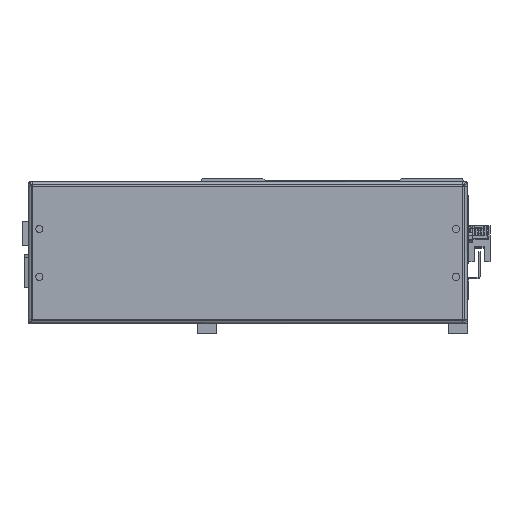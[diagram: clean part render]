
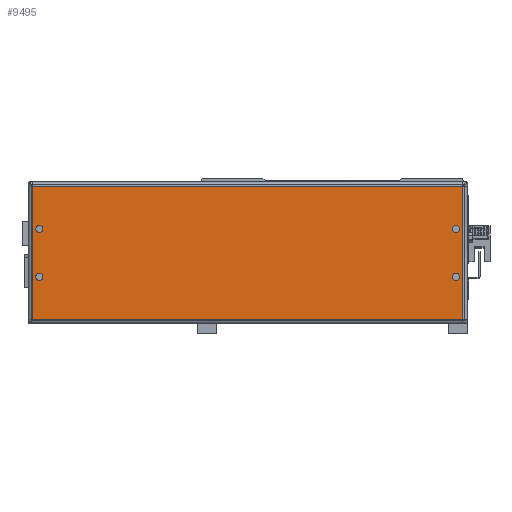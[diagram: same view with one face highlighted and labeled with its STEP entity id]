
A CAD part, front view. The second image highlights one B-rep face of the part: STEP entity #9495.
In plain terms, the highlighted planar face has unit normal (0, -1, 0) as drawn and (0, 0, 1) by its records, which use the part's own axes.
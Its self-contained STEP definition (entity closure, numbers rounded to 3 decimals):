
#13 = VERTEX_POINT ( 'NONE', #3134 ) ;
#352 = CARTESIAN_POINT ( 'NONE',  ( -97.046, -29.032, 63. ) ) ;
#661 = VERTEX_POINT ( 'NONE', #6734 ) ;
#1154 = CARTESIAN_POINT ( 'NONE',  ( 168.247, 27.731, 63. ) ) ;
#1396 = CARTESIAN_POINT ( 'NONE',  ( -97.016, 54.524, 63. ) ) ;
#1518 = CARTESIAN_POINT ( 'NONE',  ( -97.016, -29.032, 63. ) ) ;
#2566 = DIRECTION ( 'NONE',  ( 1., 0., 0. ) ) ;
#2688 = AXIS2_PLACEMENT_3D ( 'NONE', #22739, #8656, #14381 ) ;
#2734 = EDGE_CURVE ( 'NONE', #661, #661, #20101, .T. ) ;
#3134 = CARTESIAN_POINT ( 'NONE',  ( 172.51, 54.494, 63. ) ) ;
#3171 = LINE ( 'NONE', #1396, #10917 ) ;
#3206 = AXIS2_PLACEMENT_3D ( 'NONE', #12974, #8588, #20899 ) ;
#4294 = CARTESIAN_POINT ( 'NONE',  ( 172.51, -29.032, 63. ) ) ;
#4389 = VERTEX_POINT ( 'NONE', #1518 ) ;
#4665 = ORIENTED_EDGE ( 'NONE', *, *, #5373, .F. ) ;
#5373 = EDGE_CURVE ( 'NONE', #26927, #26927, #24613, .T. ) ;
#5550 = AXIS2_PLACEMENT_3D ( 'NONE', #1154, #24752, #20358 ) ;
#5909 = CARTESIAN_POINT ( 'NONE',  ( -71.103, 2.271, 63. ) ) ;
#6079 = ORIENTED_EDGE ( 'NONE', *, *, #2734, .F. ) ;
#6202 = DIRECTION ( 'NONE',  ( 0., -1., 0. ) ) ;
#6271 = DIRECTION ( 'NONE',  ( 1., 0., 0. ) ) ;
#6663 = DIRECTION ( 'NONE',  ( 0., 0., 1. ) ) ;
#6734 = CARTESIAN_POINT ( 'NONE',  ( 170.497, 27.731, 63. ) ) ;
#7160 = FACE_BOUND ( 'NONE', #21136, .T. ) ;
#7599 = EDGE_LOOP ( 'NONE', ( #4665 ) ) ;
#8565 = VERTEX_POINT ( 'NONE', #16031 ) ;
#8588 = DIRECTION ( 'NONE',  ( 0., 0., 1. ) ) ;
#8656 = DIRECTION ( 'NONE',  ( 0., 0., 1. ) ) ;
#9164 = EDGE_CURVE ( 'NONE', #25313, #4389, #3171, .T. ) ;
#9495 = ADVANCED_FACE ( 'NONE', ( #7160, #24275, #17692, #20328, #15071 ), #22547, .T. ) ;
#9922 = EDGE_LOOP ( 'NONE', ( #16900, #21331, #20032, #25685 ) ) ;
#10470 = CIRCLE ( 'NONE', #20710, 2.25 ) ;
#10632 = DIRECTION ( 'NONE',  ( 1., 0., 0. ) ) ;
#10917 = VECTOR ( 'NONE', #6202, 1000. ) ;
#11091 = LINE ( 'NONE', #18125, #16374 ) ;
#11201 = CARTESIAN_POINT ( 'NONE',  ( 172.54, 54.494, 63. ) ) ;
#11207 = EDGE_CURVE ( 'NONE', #13, #25313, #22188, .T. ) ;
#11289 = AXIS2_PLACEMENT_3D ( 'NONE', #5909, #12847, #10632 ) ;
#12153 = EDGE_CURVE ( 'NONE', #25766, #13, #11091, .T. ) ;
#12847 = DIRECTION ( 'NONE',  ( 0., 0., 1. ) ) ;
#12974 = CARTESIAN_POINT ( 'NONE',  ( -92.753, 27.731, 63. ) ) ;
#12992 = LINE ( 'NONE', #352, #26528 ) ;
#13475 = EDGE_LOOP ( 'NONE', ( #17344 ) ) ;
#13971 = ORIENTED_EDGE ( 'NONE', *, *, #16854, .F. ) ;
#14198 = EDGE_LOOP ( 'NONE', ( #6079 ) ) ;
#14381 = DIRECTION ( 'NONE',  ( 1., 0., 0. ) ) ;
#14850 = CARTESIAN_POINT ( 'NONE',  ( -97.016, 54.494, 63. ) ) ;
#15071 = FACE_OUTER_BOUND ( 'NONE', #9922, .T. ) ;
#16031 = CARTESIAN_POINT ( 'NONE',  ( -90.503, -2.269, 63. ) ) ;
#16374 = VECTOR ( 'NONE', #22520, 1000. ) ;
#16854 = EDGE_CURVE ( 'NONE', #25683, #25683, #17218, .T. ) ;
#16900 = ORIENTED_EDGE ( 'NONE', *, *, #19326, .T. ) ;
#17218 = CIRCLE ( 'NONE', #2688, 2.25 ) ;
#17315 = CARTESIAN_POINT ( 'NONE',  ( 170.497, -2.269, 63. ) ) ;
#17344 = ORIENTED_EDGE ( 'NONE', *, *, #21924, .F. ) ;
#17692 = FACE_BOUND ( 'NONE', #7599, .T. ) ;
#18125 = CARTESIAN_POINT ( 'NONE',  ( 172.51, -29.062, 63. ) ) ;
#18593 = CARTESIAN_POINT ( 'NONE',  ( -90.503, 27.731, 63. ) ) ;
#19326 = EDGE_CURVE ( 'NONE', #4389, #25766, #12992, .T. ) ;
#20032 = ORIENTED_EDGE ( 'NONE', *, *, #11207, .T. ) ;
#20101 = CIRCLE ( 'NONE', #5550, 2.25 ) ;
#20328 = FACE_BOUND ( 'NONE', #13475, .T. ) ;
#20358 = DIRECTION ( 'NONE',  ( 1., 0., 0. ) ) ;
#20687 = CARTESIAN_POINT ( 'NONE',  ( -92.753, -2.269, 63. ) ) ;
#20710 = AXIS2_PLACEMENT_3D ( 'NONE', #20687, #6663, #6271 ) ;
#20899 = DIRECTION ( 'NONE',  ( 1., 0., 0. ) ) ;
#21136 = EDGE_LOOP ( 'NONE', ( #13971 ) ) ;
#21331 = ORIENTED_EDGE ( 'NONE', *, *, #12153, .T. ) ;
#21924 = EDGE_CURVE ( 'NONE', #8565, #8565, #10470, .T. ) ;
#22188 = LINE ( 'NONE', #11201, #25000 ) ;
#22520 = DIRECTION ( 'NONE',  ( 0., 1., 0. ) ) ;
#22547 = PLANE ( 'NONE',  #11289 ) ;
#22739 = CARTESIAN_POINT ( 'NONE',  ( 168.247, -2.269, 63. ) ) ;
#24275 = FACE_BOUND ( 'NONE', #14198, .T. ) ;
#24613 = CIRCLE ( 'NONE', #3206, 2.25 ) ;
#24752 = DIRECTION ( 'NONE',  ( 0., 0., 1. ) ) ;
#25000 = VECTOR ( 'NONE', #25254, 1000. ) ;
#25254 = DIRECTION ( 'NONE',  ( -1., 0., 0. ) ) ;
#25313 = VERTEX_POINT ( 'NONE', #14850 ) ;
#25683 = VERTEX_POINT ( 'NONE', #17315 ) ;
#25685 = ORIENTED_EDGE ( 'NONE', *, *, #9164, .T. ) ;
#25766 = VERTEX_POINT ( 'NONE', #4294 ) ;
#26528 = VECTOR ( 'NONE', #2566, 1000. ) ;
#26927 = VERTEX_POINT ( 'NONE', #18593 ) ;
